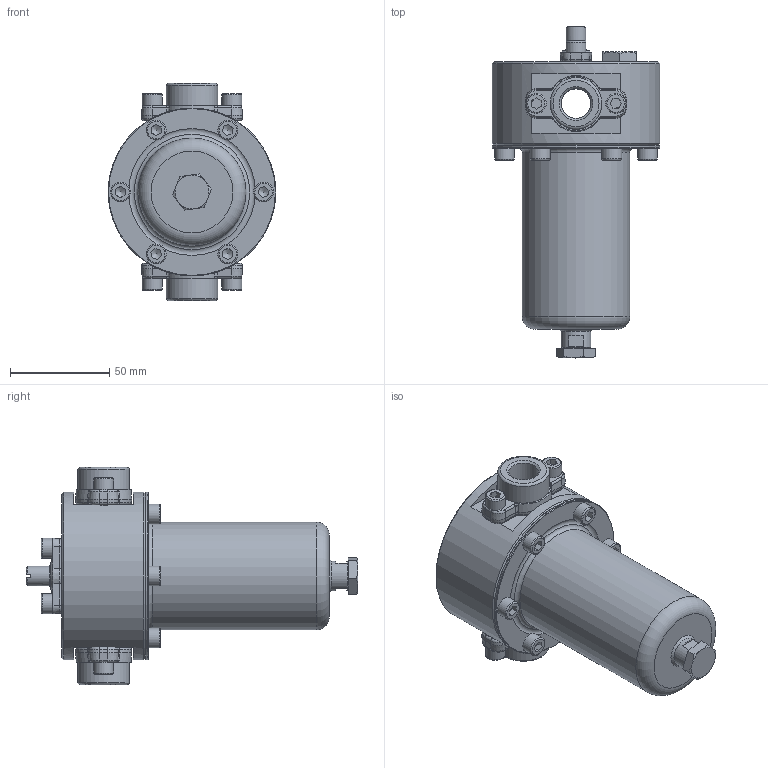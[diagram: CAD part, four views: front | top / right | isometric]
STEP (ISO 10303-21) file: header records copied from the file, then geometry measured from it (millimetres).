
FILE_DESCRIPTION(/* description */ (''),/* implementation_level */ '2;1');
FILE_NAME(/* name */ 'B-L3000-03_03.step',/* time_stamp */ '2024-02-28T09:12:24+01:00',/* author */ (''),/* organization */ (''),/* preprocessor_version */ 'ST-DEVELOPER v20',/* originating_system */ 'Autodesk Translation Framework v12.20.1.177',/* authorisation */ '');
FILE_SCHEMA (('AUTOMOTIVE_DESIGN { 1 0 10303 214 3 1 1 }'));
Length unit declared in the file: millimetre
Products named in the file (22): B-L3000-03_03; P20661; C50010; C50010_Saldature; P50052; P38100; P34131; 0DC10410; 0DC10410_1; 0DC10410_2; 0DC10410_3; P37148; 0DC10408; 0DC10405; P34131_1; OR 16099; 0DC10408_1; C30006; P30023; OR 07054; OR 07032; B-R3000-03AT-FT_02_P37128_1
Assembly tree (29 placements, depth 3):
  B-L3000-03_03
    P20661
    C50010
      C50010_Saldature
      P50052
      P38100
    P34131
    0DC10410
    0DC10410_1
    0DC10410_2
    0DC10410_3
    P37148
    0DC10408
    0DC10405  x6
    P34131_1
    OR 16099
    0DC10408_1
    C30006
      P30023
    OR 07054  x2
    OR 07032  x2
    B-R3000-03AT-FT_02_P37128_1  x2
Bounding box: 84.5 x 167.05 x 109.3 mm (x, y, z)
Volume: 147387 mm3; surface area: 95691 mm2
Topology: 28 solids, 28 shells, 549 faces, 1310 edges, 830 vertices
Faces by surface type: plane 211, cylinder 131, cone 107, torus 64, bspline 36
Full cylindrical faces by diameter (mm): 1 x4, 3.5 x2, 4.917 x12, 6 x12, 6.1 x6, 6.5 x6, 8 x2, 8.375 x1, 8.566 x2, 9.728 x1, 10 x14, 10.2 x1, 10.8 x2, 11.188 x1, 12 x1, 14.4 x2, 14.95 x2, 15 x4, 15.1 x1, 15.4 x1, 15.5 x1, 19.799 x2, 20 x1, 20.3 x2, 23.8 x2, 26 x2, 51.2 x1, 54.2 x1, 65.706 x2, 84.5 x2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
Entity records: 13401 total; most frequent: CARTESIAN_POINT 3500, DIRECTION 2038, ORIENTED_EDGE 1874, EDGE_CURVE 937, AXIS2_PLACEMENT_3D 849, VERTEX_POINT 607, EDGE_LOOP 484, CIRCLE 416
